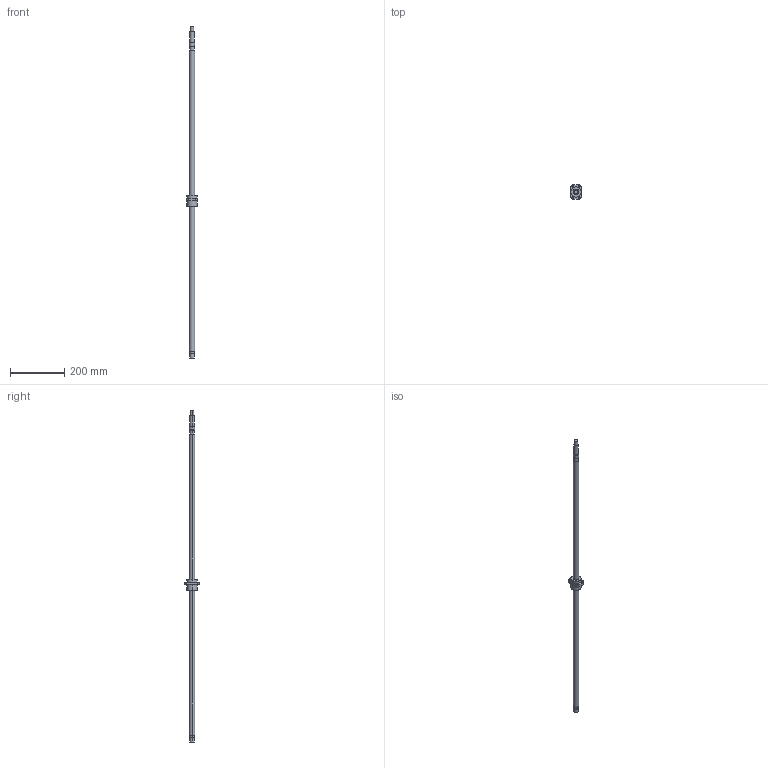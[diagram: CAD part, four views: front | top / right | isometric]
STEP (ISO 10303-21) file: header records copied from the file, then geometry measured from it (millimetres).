
FILE_DESCRIPTION((''),'2;1');
FILE_NAME('2R20-40V2-DFSH-1106-1220','2008-03-27T',('wcwu'),(''),'PRO/ENGINEER BY PARAMETRIC TECHNOLOGY CORPORATION, 2005070','PRO/ENGINEER BY PARAMETRIC TECHNOLOGY CORPORATION, 2005070','');
FILE_SCHEMA(('CONFIG_CONTROL_DESIGN'));
Length unit declared in the file: millimetre
Products named in the file (1): 2R20-40V2-DFSH-1106-1220
Bounding box: 40 x 52 x 1220 mm (x, y, z)
Volume: 410255 mm3; surface area: 82506.8 mm2
Topology: 1 solids, 1 shells, 56 faces, 128 edges, 84 vertices
Faces by surface type: cylinder 34, plane 22
Entity records: 1666 total; most frequent: DIRECTION 312, CARTESIAN_POINT 268, ORIENTED_EDGE 256, AXIS2_PLACEMENT_3D 128, EDGE_CURVE 128, VERTEX_POINT 84, EDGE_LOOP 74, CIRCLE 72
